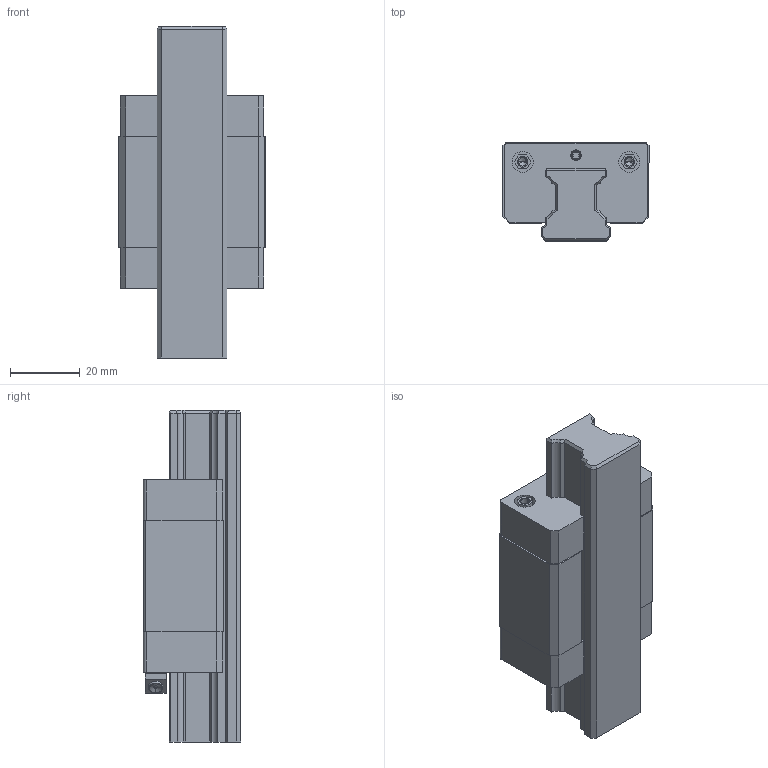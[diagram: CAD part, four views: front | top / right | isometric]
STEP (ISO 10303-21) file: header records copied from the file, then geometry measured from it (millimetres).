
FILE_DESCRIPTION((''),'2;1');
FILE_NAME('KWC_020_SKN_CS__ASM','2021-10-14T07:53:34',('ac91sw'),(''),'CREO PARAMETRIC BY PTC INC, 2020044','CREO PARAMETRIC BY PTC INC, 2020044','');
FILE_SCHEMA(('AUTOMOTIVE_DESIGN { 1 0 10303 214 1 1 1 1 }'));
Length unit declared in the file: millimetre
Products named in the file (7): KWC_020_SKN_CS__SKEL; R166648061; R169480002_Z; KWC_020_SKN_CS__PSF; R343708901_Z; R341700409_Z; KWC_020_SKN_CS__ASM
Assembly tree (7 placements, depth 2):
  KWC_020_SKN_CS__ASM
    KWC_020_SKN_CS__SKEL
    R166648061
    R169480002_Z  x2
    KWC_020_SKN_CS__PSF
    R343708901_Z
    R341700409_Z
Bounding box: 42 x 28 x 95 mm (x, y, z)
Volume: 62372.1 mm3; surface area: 25113.9 mm2
Topology: 6 solids, 13 shells, 289 faces, 733 edges, 472 vertices
Faces by surface type: plane 175, cylinder 84, cone 30
Entity records: 13000 total; most frequent: CARTESIAN_POINT 1535, DIRECTION 1155, ORIENTED_EDGE 1078, PROPERTY_DEFINITION 814, REPRESENTATION 806, PROPERTY_DEFINITION_REPRESENTATION 806, DESCRIPTIVE_REPRESENTATION_ITEM 754, GENERAL_PROPERTY 749
